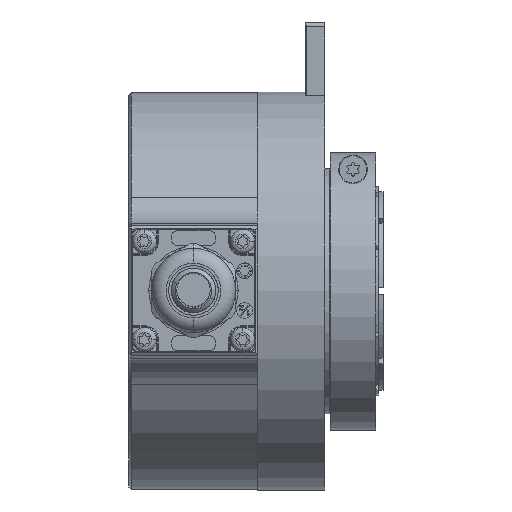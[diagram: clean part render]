
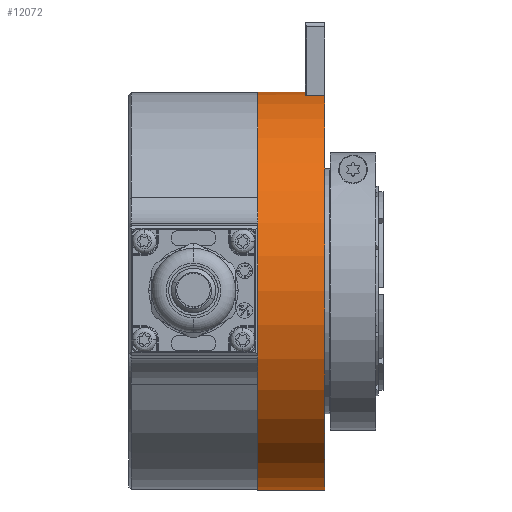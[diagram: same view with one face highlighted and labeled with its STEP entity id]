
A CAD part, top view. The second image highlights one B-rep face of the part: STEP entity #12072.
In plain terms, the highlighted cylindrical face has radius 40.075 mm (diameter 80.15 mm), a partial arc.
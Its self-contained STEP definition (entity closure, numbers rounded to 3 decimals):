
#15 = CYLINDRICAL_SURFACE ( 'NONE', #22884, 40.075 ) ;
#48 = DIRECTION ( 'NONE',  ( 0., 1., 0. ) ) ;
#224 = VERTEX_POINT ( 'NONE', #9628 ) ;
#712 = DIRECTION ( 'NONE',  ( -1., 0., 0. ) ) ;
#1006 = VERTEX_POINT ( 'NONE', #15695 ) ;
#1105 = ORIENTED_EDGE ( 'NONE', *, *, #1319, .F. ) ;
#1319 = EDGE_CURVE ( 'NONE', #24297, #224, #21339, .T. ) ;
#1542 = ORIENTED_EDGE ( 'NONE', *, *, #23604, .T. ) ;
#1790 = DIRECTION ( 'NONE',  ( -1., 0., 0. ) ) ;
#2112 = CARTESIAN_POINT ( 'NONE',  ( 9.5, 40.075, 0. ) ) ;
#2481 = ORIENTED_EDGE ( 'NONE', *, *, #10510, .T. ) ;
#2719 = DIRECTION ( 'NONE',  ( 0., 1., 0. ) ) ;
#3557 = ORIENTED_EDGE ( 'NONE', *, *, #17696, .T. ) ;
#6825 = LINE ( 'NONE', #16881, #10108 ) ;
#7667 = AXIS2_PLACEMENT_3D ( 'NONE', #22960, #21324, #48 ) ;
#8203 = DIRECTION ( 'NONE',  ( -1., 0., 0. ) ) ;
#8840 = DIRECTION ( 'NONE',  ( -1., 0., 0. ) ) ;
#9489 = AXIS2_PLACEMENT_3D ( 'NONE', #13856, #8203, #15874 ) ;
#9628 = CARTESIAN_POINT ( 'NONE',  ( 0., 40.075, 0. ) ) ;
#9668 = EDGE_CURVE ( 'NONE', #1006, #23075, #20322, .T. ) ;
#9783 = CARTESIAN_POINT ( 'NONE',  ( -12.775, -40.075, 0. ) ) ;
#10108 = VECTOR ( 'NONE', #10596, 1000. ) ;
#10510 = EDGE_CURVE ( 'NONE', #19288, #15650, #12645, .T. ) ;
#10596 = DIRECTION ( 'NONE',  ( -1., 0., 0. ) ) ;
#10721 = CARTESIAN_POINT ( 'NONE',  ( -12.775, 39.468, 6.95 ) ) ;
#11283 = DIRECTION ( 'NONE',  ( -1., 0., 0. ) ) ;
#11415 = AXIS2_PLACEMENT_3D ( 'NONE', #14291, #712, #2719 ) ;
#12072 = ADVANCED_FACE ( 'NONE', ( #17262 ), #15, .T. ) ;
#12645 = CIRCLE ( 'NONE', #11415, 40.075 ) ;
#13499 = DIRECTION ( 'NONE',  ( 0., 1., 0. ) ) ;
#13856 = CARTESIAN_POINT ( 'NONE',  ( 9.5, 0., 0. ) ) ;
#14164 = ORIENTED_EDGE ( 'NONE', *, *, #9668, .T. ) ;
#14291 = CARTESIAN_POINT ( 'NONE',  ( 13.5, 0., 0. ) ) ;
#15650 = VERTEX_POINT ( 'NONE', #19784 ) ;
#15695 = CARTESIAN_POINT ( 'NONE',  ( 9.5, 39.468, 6.95 ) ) ;
#15753 = CARTESIAN_POINT ( 'NONE',  ( -12.775, 0., 0. ) ) ;
#15874 = DIRECTION ( 'NONE',  ( 0., 1., 0. ) ) ;
#16881 = CARTESIAN_POINT ( 'NONE',  ( -12.775, 40.075, 0. ) ) ;
#17126 = ORIENTED_EDGE ( 'NONE', *, *, #19305, .F. ) ;
#17262 = FACE_OUTER_BOUND ( 'NONE', #20465, .T. ) ;
#17521 = CARTESIAN_POINT ( 'NONE',  ( 0., -40.075, 0. ) ) ;
#17696 = EDGE_CURVE ( 'NONE', #23075, #224, #6825, .T. ) ;
#19020 = VECTOR ( 'NONE', #11283, 1000. ) ;
#19288 = VERTEX_POINT ( 'NONE', #19337 ) ;
#19305 = EDGE_CURVE ( 'NONE', #19288, #24297, #22606, .T. ) ;
#19337 = CARTESIAN_POINT ( 'NONE',  ( 13.5, -40.075, 0. ) ) ;
#19784 = CARTESIAN_POINT ( 'NONE',  ( 13.5, 39.468, 6.95 ) ) ;
#20294 = LINE ( 'NONE', #10721, #23155 ) ;
#20322 = CIRCLE ( 'NONE', #9489, 40.075 ) ;
#20465 = EDGE_LOOP ( 'NONE', ( #17126, #2481, #1542, #14164, #3557, #1105 ) ) ;
#21324 = DIRECTION ( 'NONE',  ( -1., 0., 0. ) ) ;
#21339 = CIRCLE ( 'NONE', #7667, 40.075 ) ;
#22606 = LINE ( 'NONE', #9783, #19020 ) ;
#22884 = AXIS2_PLACEMENT_3D ( 'NONE', #15753, #1790, #13499 ) ;
#22960 = CARTESIAN_POINT ( 'NONE',  ( 0., 0., 0. ) ) ;
#23075 = VERTEX_POINT ( 'NONE', #2112 ) ;
#23155 = VECTOR ( 'NONE', #8840, 1000. ) ;
#23604 = EDGE_CURVE ( 'NONE', #15650, #1006, #20294, .T. ) ;
#24297 = VERTEX_POINT ( 'NONE', #17521 ) ;
